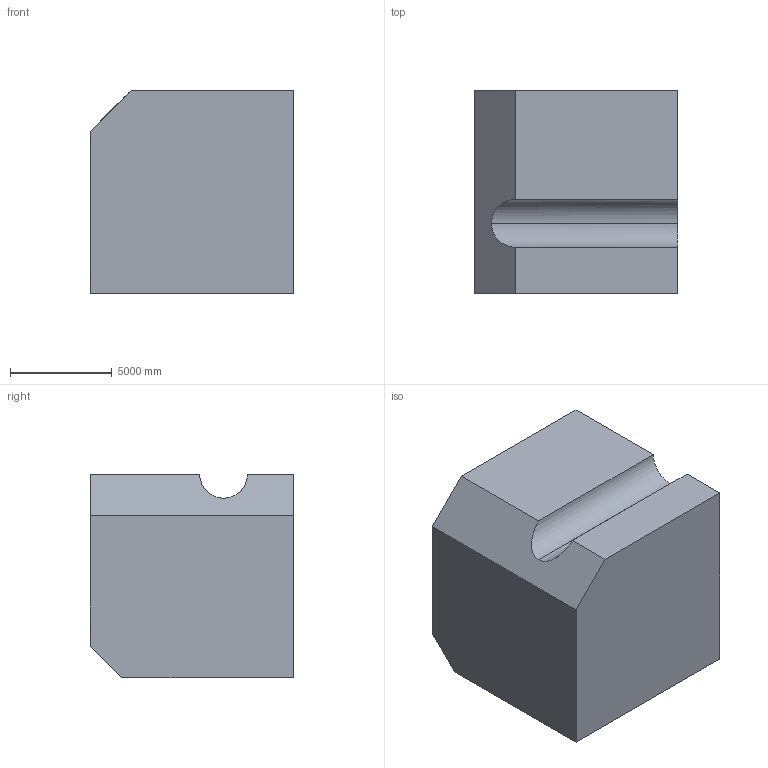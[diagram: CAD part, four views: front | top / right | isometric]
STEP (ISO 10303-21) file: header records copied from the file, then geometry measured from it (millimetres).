
FILE_DESCRIPTION (( 'STEP AP203' ), '1' );
FILE_NAME ('244.STEP', '2022-08-04T14:19:51', ( 'user' ), ( '' ), 'SwSTEP 2.0', 'SolidWorks 2021', '' );
FILE_SCHEMA (( 'CONFIG_CONTROL_DESIGN' ));
Length unit declared in the file: centimetre
Products named in the file (1): 244
Bounding box: 10000 x 10000 x 10000 mm (x, y, z)
Volume: 949300697988.3 mm3; surface area: 580890358 mm2
Topology: 1 solids, 1 shells, 11 faces, 27 edges, 18 vertices
Faces by surface type: plane 9, cylinder 2
Entity records: 400 total; most frequent: CARTESIAN_POINT 63, ORIENTED_EDGE 54, DIRECTION 51, EDGE_CURVE 27, LINE 23, VECTOR 23, VERTEX_POINT 18, AXIS2_PLACEMENT_3D 14
